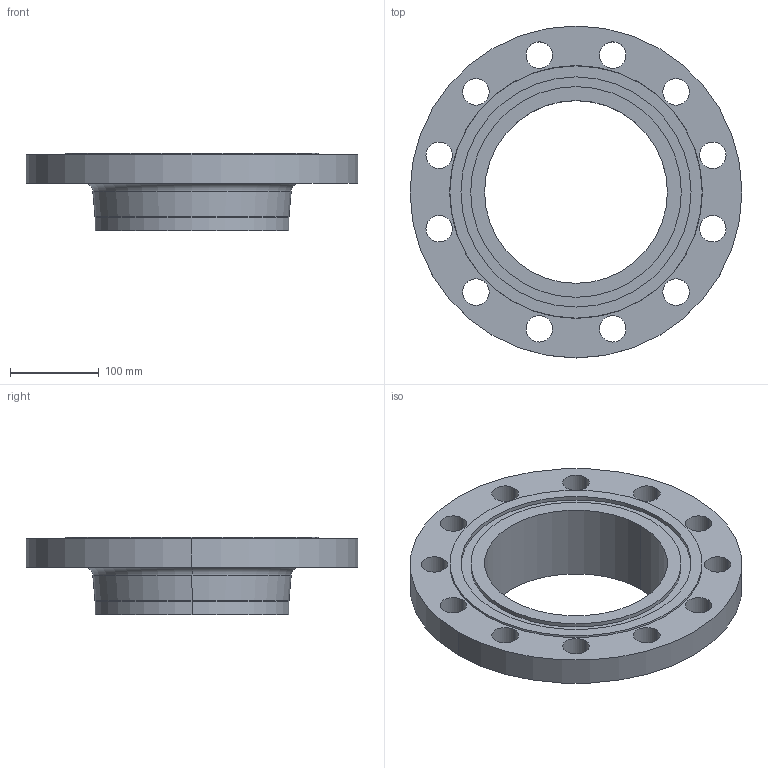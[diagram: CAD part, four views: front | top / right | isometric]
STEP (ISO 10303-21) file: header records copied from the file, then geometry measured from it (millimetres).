
FILE_DESCRIPTION (( 'STEP AP214' ), '1' );
FILE_NAME ('PN40 DN200 Type 11 - Type D Face.STEP', '2019-01-05T02:18:59', ( '' ), ( '' ), 'SwSTEP 2.0', 'SolidWorks 2019', '' );
FILE_SCHEMA (( 'AUTOMOTIVE_DESIGN' ));
Length unit declared in the file: millimetre
Products named in the file (1): PN40 DN200 Type 11 - Type D Face
Bounding box: 375 x 375 x 88 mm (x, y, z)
Volume: 2497012.7 mm3; surface area: 309400.4 mm2
Topology: 1 solids, 1 shells, 48 faces, 120 edges, 78 vertices
Faces by surface type: cylinder 34, plane 6, torus 4, cone 4
Entity records: 1564 total; most frequent: DIRECTION 300, CARTESIAN_POINT 247, ORIENTED_EDGE 240, AXIS2_PLACEMENT_3D 131, EDGE_CURVE 120, CIRCLE 82, VERTEX_POINT 78, EDGE_LOOP 78
